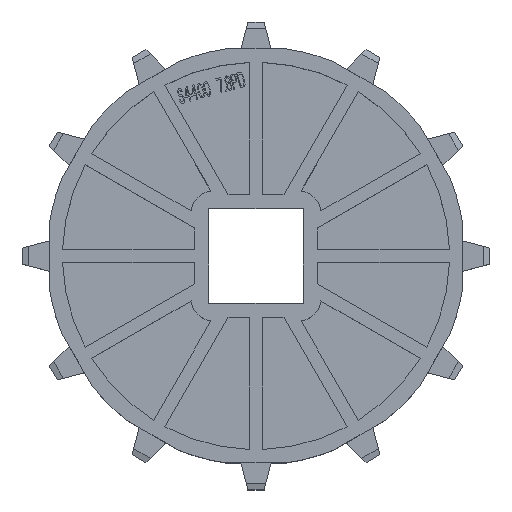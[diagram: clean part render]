
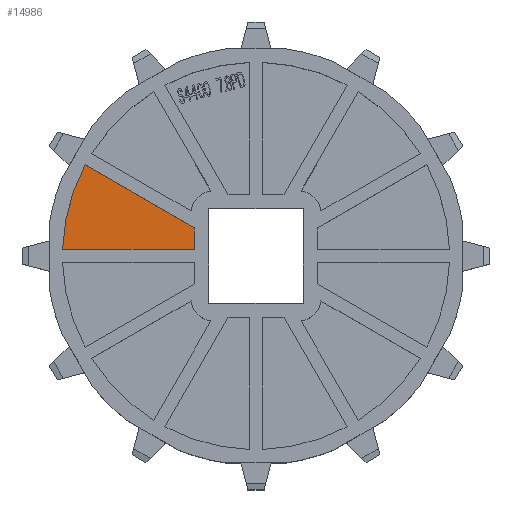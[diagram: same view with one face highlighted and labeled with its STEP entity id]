
A CAD part, top view. The second image highlights one B-rep face of the part: STEP entity #14986.
In plain terms, the highlighted planar face has unit normal (0, 0, 1).
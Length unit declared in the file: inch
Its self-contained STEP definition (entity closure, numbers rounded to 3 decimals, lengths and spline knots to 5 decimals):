
#2638=CARTESIAN_POINT('',(0.,0.,0.075));
#2639=DIRECTION('',(0.,0.,1.));
#2640=DIRECTION('',(-0.882,0.471,0.));
#2641=AXIS2_PLACEMENT_3D('',#2638,#2639,#2640);
#2915=DIRECTION('',(0.,-1.,0.));
#2916=VECTOR('',#2915,0.358);
#2917=CARTESIAN_POINT('',(-1.025,0.4665,0.075));
#2918=LINE('',#2917,#2916);
#2919=DIRECTION('',(1.,0.,0.));
#2920=VECTOR('',#2919,2.19872);
#2921=CARTESIAN_POINT('',(-3.22372,0.1085,0.075));
#2922=LINE('',#2921,#2920);
#2923=DIRECTION('',(-0.866,0.5,0.));
#2924=VECTOR('',#2923,2.10279);
#2925=CARTESIAN_POINT('',(-1.025,0.4665,0.075));
#2926=LINE('',#2925,#2924);
#8973=CARTESIAN_POINT('',(-1.025,0.4665,0.075));
#8974=CARTESIAN_POINT('',(-1.025,0.1085,0.075));
#8975=VERTEX_POINT('',#8973);
#8976=VERTEX_POINT('',#8974);
#9193=CARTESIAN_POINT('',(-2.84607,1.51789,0.075));
#9194=VERTEX_POINT('',#9193);
#9199=CARTESIAN_POINT('',(-3.22372,0.1085,0.075));
#9200=VERTEX_POINT('',#9199);
#14974=CARTESIAN_POINT('',(-2.55577,2.26282,0.075));
#14975=DIRECTION('',(0.,0.,-1.));
#14976=DIRECTION('',(0.5,-0.866,0.));
#14977=AXIS2_PLACEMENT_3D('',#14974,#14975,#14976);
#14978=PLANE('',#14977);
#14979=ORIENTED_EDGE('',*,*,#14537,.T.);
#14980=ORIENTED_EDGE('',*,*,#14598,.F.);
#14981=ORIENTED_EDGE('',*,*,#14740,.F.);
#14983=ORIENTED_EDGE('',*,*,#14982,.F.);
#14984=EDGE_LOOP('',(#14979,#14980,#14981,#14983));
#14985=FACE_OUTER_BOUND('',#14984,.F.);
#14986=ADVANCED_FACE('',(#14985),#14978,.F.);
#2642=CIRCLE('',#2641,3.22554);
#14537=EDGE_CURVE('',#8975,#8976,#2918,.T.);
#14598=EDGE_CURVE('',#9200,#8976,#2922,.T.);
#14740=EDGE_CURVE('',#9194,#9200,#2642,.T.);
#14982=EDGE_CURVE('',#8975,#9194,#2926,.T.);
